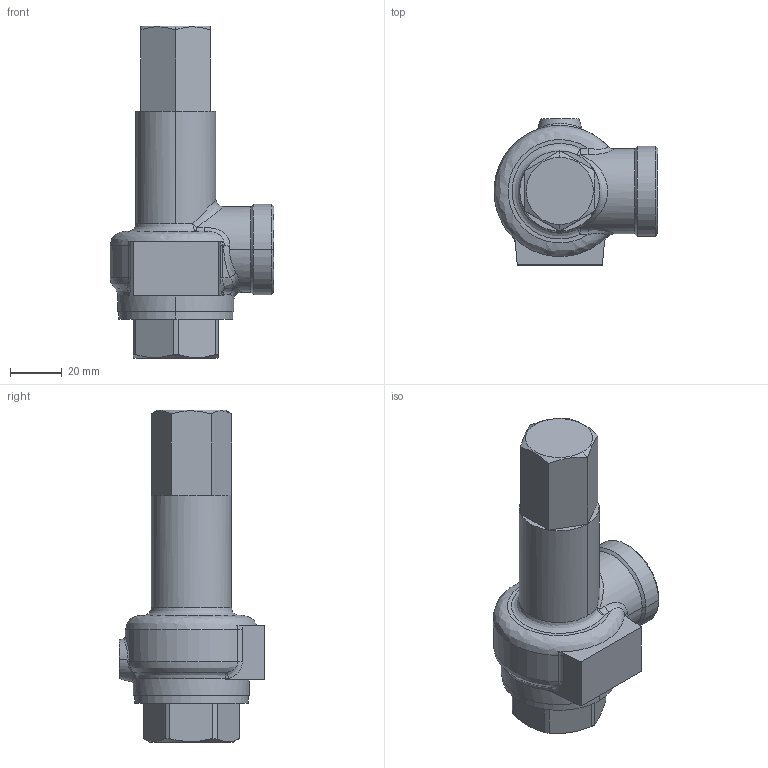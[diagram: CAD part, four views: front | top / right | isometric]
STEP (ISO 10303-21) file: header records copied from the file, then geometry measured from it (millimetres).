
FILE_DESCRIPTION( (''), '2;1');
FILE_NAME ('PC1027.9568.AL-140 20A_7660.stp','2025-07-28T13:37:45',(''),(''),'spGate 19.8.4 (****-****-****-****)','','');
FILE_SCHEMA (('AUTOMOTIVE_DESIGN'));
Length unit declared in the file: millimetre
Products named in the file (2): Assembly; AL-140 20A-3D
Assembly tree (1 placements, depth 2):
  Assembly
    AL-140 20A-3D
Bounding box: 63.47 x 56.5 x 128.5 mm (x, y, z)
Volume: 140695 mm3; surface area: 22185 mm2
Topology: 1 solids, 1 shells, 112 faces, 260 edges, 154 vertices
Faces by surface type: bspline 44, plane 38, cylinder 24, sphere 6
Entity records: 7020 total; most frequent: CARTESIAN_POINT 2584, ORIENTED_EDGE 520, DIRECTION 432, COLOUR_RGB 373, PRESENTATION_STYLE_ASSIGNMENT 373, STYLED_ITEM 373, EDGE_CURVE 260, DRAUGHTING_PRE_DEFINED_CURVE_FONT 260
